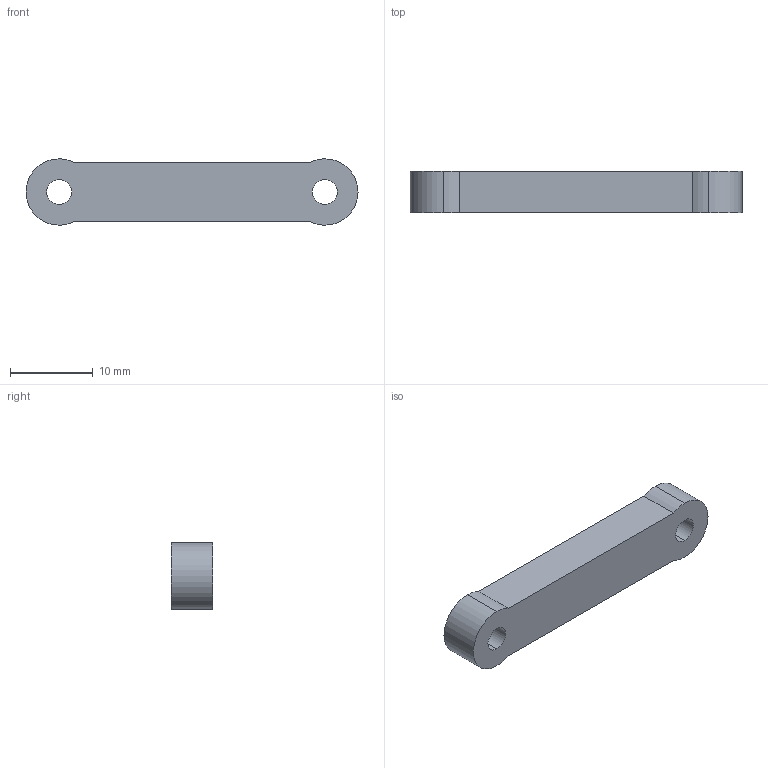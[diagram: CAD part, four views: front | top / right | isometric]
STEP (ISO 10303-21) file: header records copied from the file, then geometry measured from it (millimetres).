
FILE_DESCRIPTION (( 'STEP AP214' ), '1' );
FILE_NAME ('ﾌ44_ﾏﾌ_ﾒ聰 01.STEP', '2019-03-21T14:22:35', ( '' ), ( '' ), 'SwSTEP 2.0', 'SolidWorks 2018', '' );
FILE_SCHEMA (( 'AUTOMOTIVE_DESIGN' ));
Length unit declared in the file: millimetre
Products named in the file (1): ﾌ44_ﾏﾌ_ﾒ聰 01
Bounding box: 40 x 5 x 8 mm (x, y, z)
Volume: 1313.7 mm3; surface area: 1067.1 mm2
Topology: 1 solids, 1 shells, 14 faces, 36 edges, 24 vertices
Faces by surface type: cylinder 10, plane 4
Entity records: 482 total; most frequent: DIRECTION 86, CARTESIAN_POINT 75, ORIENTED_EDGE 72, EDGE_CURVE 36, AXIS2_PLACEMENT_3D 35, VERTEX_POINT 24, CIRCLE 20, EDGE_LOOP 18
